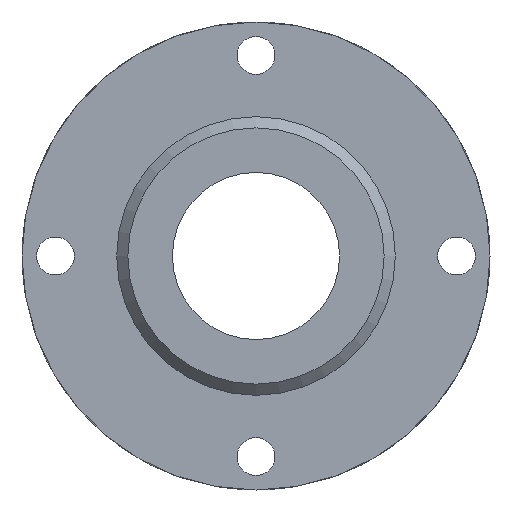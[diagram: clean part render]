
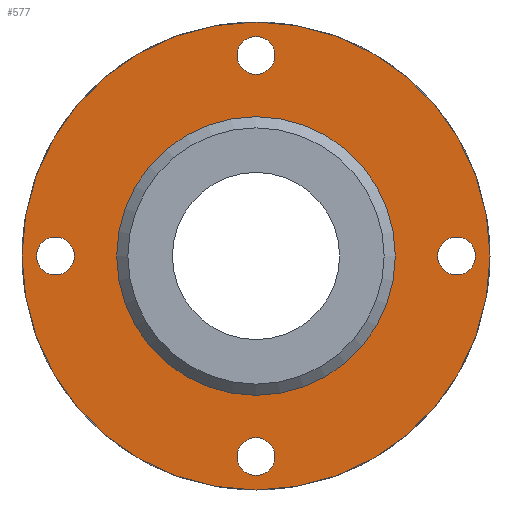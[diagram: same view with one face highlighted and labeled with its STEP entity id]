
A CAD part, left-side view. The second image highlights one B-rep face of the part: STEP entity #577.
In plain terms, the highlighted planar face has unit normal (-1, 0, 0).
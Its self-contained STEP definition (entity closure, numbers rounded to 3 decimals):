
#34=FACE_BOUND('',#123,.T.);
#35=FACE_BOUND('',#124,.T.);
#36=FACE_BOUND('',#125,.T.);
#37=FACE_BOUND('',#126,.T.);
#38=FACE_BOUND('',#127,.T.);
#54=PLANE('',#667);
#84=FACE_OUTER_BOUND('',#122,.T.);
#122=EDGE_LOOP('',(#519));
#123=EDGE_LOOP('',(#520));
#124=EDGE_LOOP('',(#521));
#125=EDGE_LOOP('',(#522));
#126=EDGE_LOOP('',(#523));
#127=EDGE_LOOP('',(#524));
#236=CIRCLE('',#643,1.7);
#239=CIRCLE('',#648,1.7);
#243=CIRCLE('',#654,1.7);
#246=CIRCLE('',#659,1.7);
#250=CIRCLE('',#666,12.5);
#251=CIRCLE('',#668,21.);
#292=VERTEX_POINT('',#969);
#294=VERTEX_POINT('',#977);
#297=VERTEX_POINT('',#987);
#299=VERTEX_POINT('',#995);
#303=VERTEX_POINT('',#1008);
#304=VERTEX_POINT('',#1012);
#363=EDGE_CURVE('',#292,#292,#236,.T.);
#367=EDGE_CURVE('',#294,#294,#239,.T.);
#372=EDGE_CURVE('',#297,#297,#243,.T.);
#376=EDGE_CURVE('',#299,#299,#246,.T.);
#381=EDGE_CURVE('',#303,#303,#250,.T.);
#383=EDGE_CURVE('',#304,#304,#251,.T.);
#519=ORIENTED_EDGE('',*,*,#383,.F.);
#520=ORIENTED_EDGE('',*,*,#363,.T.);
#521=ORIENTED_EDGE('',*,*,#367,.T.);
#522=ORIENTED_EDGE('',*,*,#372,.T.);
#523=ORIENTED_EDGE('',*,*,#376,.T.);
#524=ORIENTED_EDGE('',*,*,#381,.T.);
#577=ADVANCED_FACE('',(#84,#34,#35,#36,#37,#38),#54,.T.);
#643=AXIS2_PLACEMENT_3D('',#971,#791,#792);
#648=AXIS2_PLACEMENT_3D('',#979,#802,#803);
#654=AXIS2_PLACEMENT_3D('',#989,#815,#816);
#659=AXIS2_PLACEMENT_3D('',#997,#826,#827);
#666=AXIS2_PLACEMENT_3D('',#1009,#841,#842);
#667=AXIS2_PLACEMENT_3D('',#1011,#844,#845);
#668=AXIS2_PLACEMENT_3D('',#1013,#846,#847);
#791=DIRECTION('center_axis',(1.,0.,0.));
#792=DIRECTION('ref_axis',(0.,0.,-1.));
#802=DIRECTION('center_axis',(1.,0.,0.));
#803=DIRECTION('ref_axis',(0.,0.,-1.));
#815=DIRECTION('center_axis',(1.,0.,0.));
#816=DIRECTION('ref_axis',(0.,0.,-1.));
#826=DIRECTION('center_axis',(1.,0.,0.));
#827=DIRECTION('ref_axis',(0.,0.,-1.));
#841=DIRECTION('center_axis',(1.,0.,0.));
#842=DIRECTION('ref_axis',(0.,1.,0.));
#844=DIRECTION('center_axis',(-1.,0.,0.));
#845=DIRECTION('ref_axis',(0.,0.,1.));
#846=DIRECTION('center_axis',(1.,0.,0.));
#847=DIRECTION('ref_axis',(0.,1.,0.));
#969=CARTESIAN_POINT('',(-5.,0.,-16.3));
#971=CARTESIAN_POINT('Origin',(-5.,0.,-18.));
#977=CARTESIAN_POINT('',(-5.,0.,19.7));
#979=CARTESIAN_POINT('Origin',(-5.,0.,18.));
#987=CARTESIAN_POINT('',(-5.,-18.,1.7));
#989=CARTESIAN_POINT('Origin',(-5.,-18.,0.));
#995=CARTESIAN_POINT('',(-5.,18.,1.7));
#997=CARTESIAN_POINT('Origin',(-5.,18.,0.));
#1008=CARTESIAN_POINT('',(-5.,-12.5,0.));
#1009=CARTESIAN_POINT('Origin',(-5.,0.,0.));
#1011=CARTESIAN_POINT('Origin',(-5.,16.75,0.));
#1012=CARTESIAN_POINT('',(-5.,-21.,0.));
#1013=CARTESIAN_POINT('Origin',(-5.,0.,0.));
